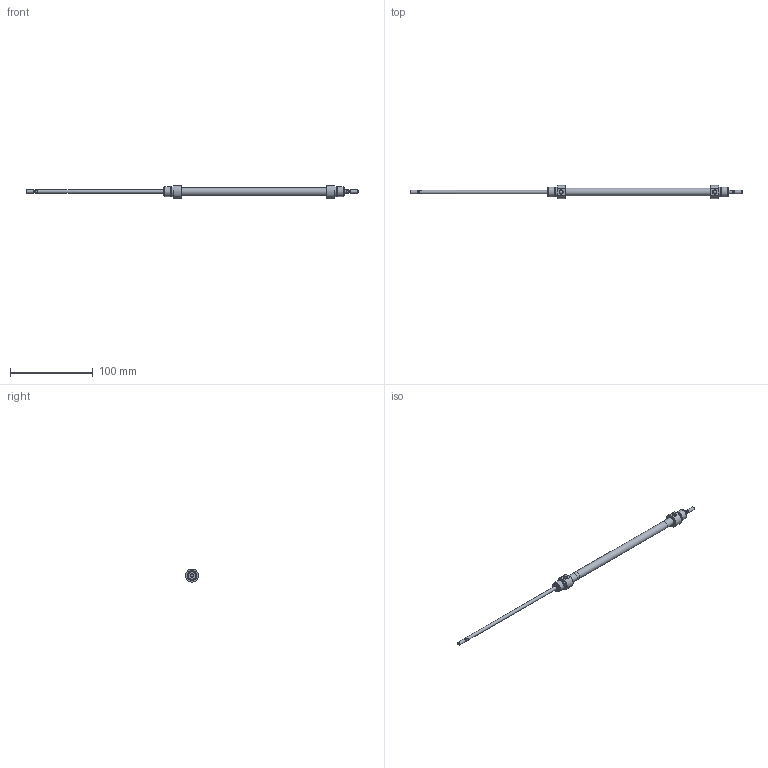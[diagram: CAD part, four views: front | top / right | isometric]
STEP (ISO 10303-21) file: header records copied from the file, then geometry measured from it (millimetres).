
FILE_DESCRIPTION( ( 'STEP AP203' ), '1' );
FILE_NAME( '//expscmdclustefs.cadenas.external/client_exchange/iodir/jobs/output/wkb68261654_no0/STEP/M101-08-0150--__0__2_03.stp', ' ', ( ' ' ), ( ' ' ), 'PSStep 15.0.47', 'PARTsolutions', ' ' );
FILE_SCHEMA( ( 'CONFIG_CONTROL_DESIGN' ) );
Length unit declared in the file: millimetre
Products named in the file (3): M101-08-0150-- [0]; HI_M101-08-0150---[0]-z; HI_M101-08-0150---[0]-k
Assembly tree (2 placements, depth 2):
  M101-08-0150-- [0]
    HI_M101-08-0150---[0]-z
    HI_M101-08-0150---[0]-k
Bounding box: 402 x 15.98 x 14.97 mm (x, y, z)
Volume: 14871.1 mm3; surface area: 17725 mm2
Topology: 2 solids, 2 shells, 71 faces, 145 edges, 88 vertices
Faces by surface type: plane 32, cylinder 23, cone 14, torus 2
Full cylindrical faces by diameter (mm): 3.141 x2, 4 x6, 4.134 x2, 8 x2, 9.3 x1, 10.466 x4, 12 x4
Entity records: 1838 total; most frequent: CARTESIAN_POINT 358, DIRECTION 312, ORIENTED_EDGE 212, AXIS2_PLACEMENT_3D 140, EDGE_LOOP 120, EDGE_CURVE 106, FACE_OUTER_BOUND 94, VERTEX_POINT 82
